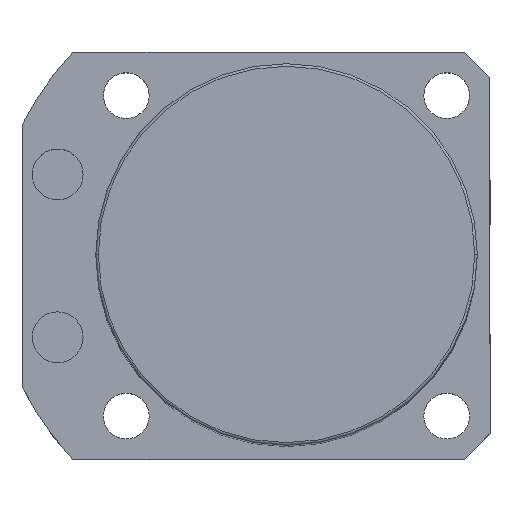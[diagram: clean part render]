
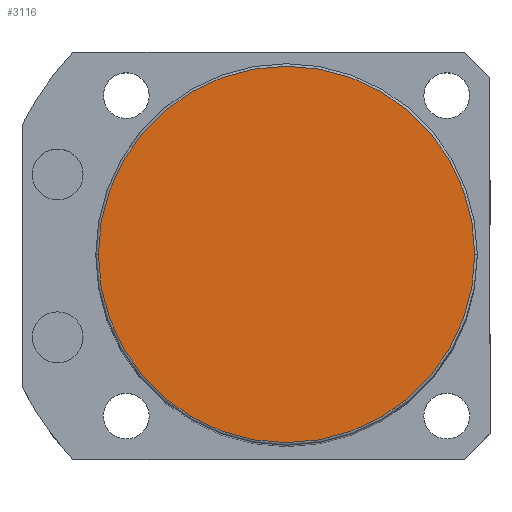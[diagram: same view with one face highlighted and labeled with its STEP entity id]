
A CAD part, top view. The second image highlights one B-rep face of the part: STEP entity #3116.
In plain terms, the highlighted planar face has unit normal (0, 0, 1).
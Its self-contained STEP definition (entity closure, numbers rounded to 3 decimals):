
#1 = VERTEX_POINT ( 'NONE', #3364 ) ;
#35 = DIRECTION ( 'NONE',  ( 1., 0., 0. ) ) ;
#107 = ORIENTED_EDGE ( 'NONE', *, *, #4728, .T. ) ;
#159 = VERTEX_POINT ( 'NONE', #5039 ) ;
#345 = DIRECTION ( 'NONE',  ( 0., 0., 1. ) ) ;
#362 = EDGE_CURVE ( 'NONE', #1, #159, #4879, .T. ) ;
#573 = DIRECTION ( 'NONE',  ( 0., 0., 1. ) ) ;
#1489 = CIRCLE ( 'NONE', #1978, 37. ) ;
#1978 = AXIS2_PLACEMENT_3D ( 'NONE', #2546, #2634, #35 ) ;
#2546 = CARTESIAN_POINT ( 'NONE',  ( 0., 0., 175.5 ) ) ;
#2634 = DIRECTION ( 'NONE',  ( 0., 0., 1. ) ) ;
#2818 = EDGE_LOOP ( 'NONE', ( #2946, #107 ) ) ;
#2890 = PLANE ( 'NONE',  #3179 ) ;
#2946 = ORIENTED_EDGE ( 'NONE', *, *, #362, .T. ) ;
#3116 = ADVANCED_FACE ( 'NONE', ( #3844 ), #2890, .T. ) ;
#3179 = AXIS2_PLACEMENT_3D ( 'NONE', #3415, #345, #4959 ) ;
#3364 = CARTESIAN_POINT ( 'NONE',  ( 37., 0., 175.5 ) ) ;
#3415 = CARTESIAN_POINT ( 'NONE',  ( 0., 0., 175.5 ) ) ;
#3844 = FACE_OUTER_BOUND ( 'NONE', #2818, .T. ) ;
#4130 = CARTESIAN_POINT ( 'NONE',  ( 0., 0., 175.5 ) ) ;
#4728 = EDGE_CURVE ( 'NONE', #159, #1, #1489, .T. ) ;
#4879 = CIRCLE ( 'NONE', #4987, 37. ) ;
#4959 = DIRECTION ( 'NONE',  ( 1., 0., 0. ) ) ;
#4987 = AXIS2_PLACEMENT_3D ( 'NONE', #4130, #573, #5149 ) ;
#5039 = CARTESIAN_POINT ( 'NONE',  ( -37., 0., 175.5 ) ) ;
#5149 = DIRECTION ( 'NONE',  ( 1., 0., 0. ) ) ;
